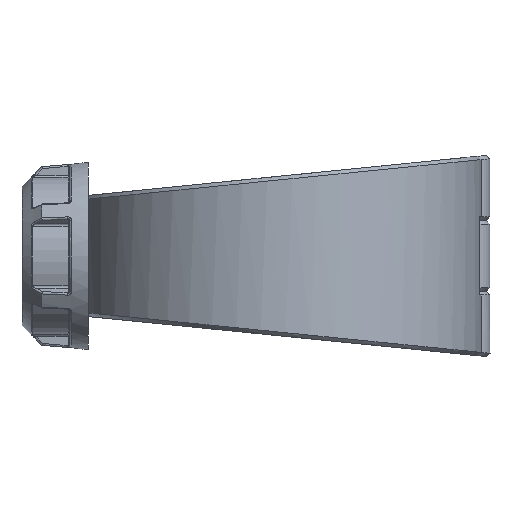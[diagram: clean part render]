
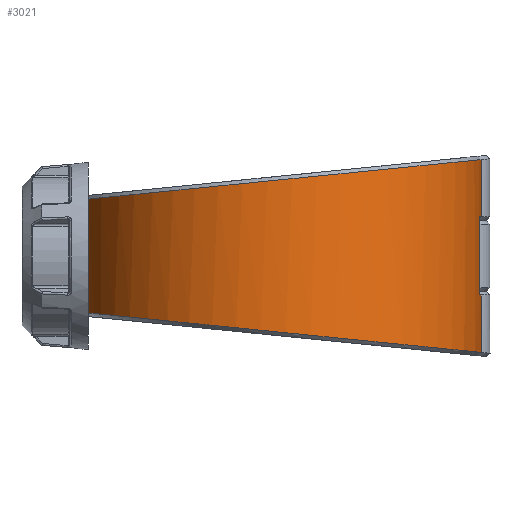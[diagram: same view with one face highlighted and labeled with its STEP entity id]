
A CAD part, left-side view. The second image highlights one B-rep face of the part: STEP entity #3021.
In plain terms, the highlighted cylindrical face has radius 110 mm (diameter 220 mm), a partial arc.
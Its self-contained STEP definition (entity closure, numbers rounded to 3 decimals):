
#212=FACE_OUTER_BOUND('',#416,.T.);
#416=EDGE_LOOP('',(#2055,#2056,#2057,#2058,#2059,#2060,#2061,#2062,#2063,
#2064,#2065,#2066));
#623=CIRCLE('',#3251,110.);
#626=CIRCLE('',#3256,110.);
#805=B_SPLINE_CURVE_WITH_KNOTS('',3,(#4512,#4513,#4514,#4515),
 .UNSPECIFIED.,.F.,.F.,(4,4),(-0.001,0.),.UNSPECIFIED.);
#806=B_SPLINE_CURVE_WITH_KNOTS('',3,(#4517,#4518,#4519,#4520),
 .UNSPECIFIED.,.F.,.F.,(4,4),(-3.049,-3.049),
 .UNSPECIFIED.);
#807=B_SPLINE_CURVE_WITH_KNOTS('',3,(#4521,#4522,#4523,#4524,#4525,#4526,
#4527,#4528,#4529,#4530),.UNSPECIFIED.,.F.,.F.,(4,1,1,1,1,1,1,4),(0.317,
0.656,1.056,1.457,1.857,2.257,
2.657,3.049),.UNSPECIFIED.);
#808=B_SPLINE_CURVE_WITH_KNOTS('',3,(#4532,#4533,#4534,#4535,#4536,#4537,
#4538,#4539,#4540,#4541),.UNSPECIFIED.,.F.,.F.,(4,1,1,1,1,1,1,4),(-3.049,
-2.657,-2.257,-1.857,-1.457,-1.056,
-0.656,-0.317),.UNSPECIFIED.);
#809=B_SPLINE_CURVE_WITH_KNOTS('',3,(#4543,#4544,#4545,#4546),
 .UNSPECIFIED.,.F.,.F.,(4,4),(3.049,3.049),
 .UNSPECIFIED.);
#810=B_SPLINE_CURVE_WITH_KNOTS('',3,(#4548,#4549,#4550,#4551),
 .UNSPECIFIED.,.F.,.F.,(4,4),(-0.361,-0.36),
 .UNSPECIFIED.);
#972=LINE('',#4391,#1093);
#979=LINE('',#4446,#1100);
#985=LINE('',#4510,#1106);
#986=LINE('',#4552,#1107);
#1093=VECTOR('',#3575,10.);
#1100=VECTOR('',#3592,10.);
#1106=VECTOR('',#3638,10.);
#1107=VECTOR('',#3639,10.);
#1216=VERTEX_POINT('',#4376);
#1217=VERTEX_POINT('',#4390);
#1229=VERTEX_POINT('',#4440);
#1230=VERTEX_POINT('',#4445);
#1236=VERTEX_POINT('',#4466);
#1239=VERTEX_POINT('',#4487);
#1243=VERTEX_POINT('',#4509);
#1244=VERTEX_POINT('',#4511);
#1245=VERTEX_POINT('',#4516);
#1246=VERTEX_POINT('',#4531);
#1247=VERTEX_POINT('',#4542);
#1248=VERTEX_POINT('',#4547);
#1510=EDGE_CURVE('',#1216,#1217,#972,.T.);
#1524=EDGE_CURVE('',#1229,#1230,#979,.T.);
#1537=EDGE_CURVE('',#1236,#1229,#623,.T.);
#1542=EDGE_CURVE('',#1230,#1239,#626,.T.);
#1548=EDGE_CURVE('',#1243,#1236,#985,.T.);
#1549=EDGE_CURVE('',#1244,#1243,#805,.T.);
#1550=EDGE_CURVE('',#1244,#1245,#806,.T.);
#1551=EDGE_CURVE('',#1217,#1245,#807,.T.);
#1552=EDGE_CURVE('',#1246,#1216,#808,.T.);
#1553=EDGE_CURVE('',#1246,#1247,#809,.T.);
#1554=EDGE_CURVE('',#1248,#1247,#810,.T.);
#1555=EDGE_CURVE('',#1239,#1248,#986,.T.);
#2055=ORIENTED_EDGE('',*,*,#1542,.F.);
#2056=ORIENTED_EDGE('',*,*,#1524,.F.);
#2057=ORIENTED_EDGE('',*,*,#1537,.F.);
#2058=ORIENTED_EDGE('',*,*,#1548,.F.);
#2059=ORIENTED_EDGE('',*,*,#1549,.F.);
#2060=ORIENTED_EDGE('',*,*,#1550,.T.);
#2061=ORIENTED_EDGE('',*,*,#1551,.F.);
#2062=ORIENTED_EDGE('',*,*,#1510,.F.);
#2063=ORIENTED_EDGE('',*,*,#1552,.F.);
#2064=ORIENTED_EDGE('',*,*,#1553,.T.);
#2065=ORIENTED_EDGE('',*,*,#1554,.F.);
#2066=ORIENTED_EDGE('',*,*,#1555,.F.);
#2962=CYLINDRICAL_SURFACE('',#3261,110.);
#3021=ADVANCED_FACE('',(#212),#2962,.T.);
#3251=AXIS2_PLACEMENT_3D('',#4482,#3614,#3615);
#3256=AXIS2_PLACEMENT_3D('',#4496,#3624,#3625);
#3261=AXIS2_PLACEMENT_3D('',#4508,#3636,#3637);
#3575=DIRECTION('',(0.,0.,1.));
#3592=DIRECTION('',(0.,0.,-1.));
#3614=DIRECTION('center_axis',(0.,0.,-1.));
#3615=DIRECTION('ref_axis',(0.312,-0.95,0.));
#3624=DIRECTION('center_axis',(0.,0.,1.));
#3625=DIRECTION('ref_axis',(0.312,-0.95,0.));
#3636=DIRECTION('center_axis',(0.,0.,1.));
#3637=DIRECTION('ref_axis',(-0.312,0.95,0.));
#3638=DIRECTION('',(0.,0.,-1.));
#3639=DIRECTION('',(0.,0.,-1.));
#4376=CARTESIAN_POINT('',(-34.347,104.5,-30.999));
#4390=CARTESIAN_POINT('',(-34.347,104.5,30.999));
#4391=CARTESIAN_POINT('',(-34.347,104.5,0.));
#4440=CARTESIAN_POINT('',(-17.029,-108.674,21.25));
#4445=CARTESIAN_POINT('',(-17.029,-108.674,-21.25));
#4446=CARTESIAN_POINT('',(-17.029,-108.674,0.));
#4466=CARTESIAN_POINT('',(-10.117,-109.534,21.25));
#4482=CARTESIAN_POINT('Origin',(0.,0.,21.25));
#4487=CARTESIAN_POINT('',(-10.117,-109.534,-21.25));
#4496=CARTESIAN_POINT('Origin',(0.,0.,-21.25));
#4508=CARTESIAN_POINT('Origin',(0.,0.,0.));
#4509=CARTESIAN_POINT('',(-10.117,-109.534,52.505));
#4510=CARTESIAN_POINT('',(-10.117,-109.534,0.));
#4511=CARTESIAN_POINT('',(-10.109,-109.535,52.511));
#4512=CARTESIAN_POINT('Ctrl Pts',(-10.109,-109.535,52.511));
#4513=CARTESIAN_POINT('Ctrl Pts',(-10.111,-109.534,52.509));
#4514=CARTESIAN_POINT('Ctrl Pts',(-10.114,-109.534,52.507));
#4515=CARTESIAN_POINT('Ctrl Pts',(-10.117,-109.534,52.505));
#4516=CARTESIAN_POINT('',(-10.117,-109.534,52.511));
#4517=CARTESIAN_POINT('Ctrl Pts',(-10.109,-109.534,52.511));
#4518=CARTESIAN_POINT('Ctrl Pts',(-10.111,-109.534,52.511));
#4519=CARTESIAN_POINT('Ctrl Pts',(-10.114,-109.534,52.511));
#4520=CARTESIAN_POINT('Ctrl Pts',(-10.117,-109.534,52.511));
#4521=CARTESIAN_POINT('Ctrl Pts',(-34.347,104.498,30.999));
#4522=CARTESIAN_POINT('Ctrl Pts',(-46.173,100.605,31.39));
#4523=CARTESIAN_POINT('Ctrl Pts',(-70.517,87.723,32.682));
#4524=CARTESIAN_POINT('Ctrl Pts',(-98.454,55.447,35.922));
#4525=CARTESIAN_POINT('Ctrl Pts',(-112.264,12.67,40.219));
#4526=CARTESIAN_POINT('Ctrl Pts',(-108.336,-32.076,44.716));
#4527=CARTESIAN_POINT('Ctrl Pts',(-87.284,-71.718,48.704));
#4528=CARTESIAN_POINT('Ctrl Pts',(-52.741,-99.838,51.535));
#4529=CARTESIAN_POINT('Ctrl Pts',(-24.398,-108.213,52.378));
#4530=CARTESIAN_POINT('Ctrl Pts',(-10.117,-109.534,52.511));
#4531=CARTESIAN_POINT('',(-10.117,-109.534,-52.511));
#4532=CARTESIAN_POINT('Ctrl Pts',(-10.117,-109.534,-52.511));
#4533=CARTESIAN_POINT('Ctrl Pts',(-24.398,-108.213,-52.378));
#4534=CARTESIAN_POINT('Ctrl Pts',(-52.735,-99.833,-51.534));
#4535=CARTESIAN_POINT('Ctrl Pts',(-87.293,-71.725,-48.705));
#4536=CARTESIAN_POINT('Ctrl Pts',(-108.324,-32.073,-44.716));
#4537=CARTESIAN_POINT('Ctrl Pts',(-112.276,12.671,-40.219));
#4538=CARTESIAN_POINT('Ctrl Pts',(-98.443,55.442,-35.923));
#4539=CARTESIAN_POINT('Ctrl Pts',(-70.523,87.727,-32.682));
#4540=CARTESIAN_POINT('Ctrl Pts',(-46.173,100.606,-31.39));
#4541=CARTESIAN_POINT('Ctrl Pts',(-34.347,104.498,-30.999));
#4542=CARTESIAN_POINT('',(-10.109,-109.535,-52.511));
#4543=CARTESIAN_POINT('Ctrl Pts',(-10.117,-109.534,-52.511));
#4544=CARTESIAN_POINT('Ctrl Pts',(-10.114,-109.534,-52.511));
#4545=CARTESIAN_POINT('Ctrl Pts',(-10.111,-109.534,-52.511));
#4546=CARTESIAN_POINT('Ctrl Pts',(-10.109,-109.534,-52.511));
#4547=CARTESIAN_POINT('',(-10.117,-109.534,-52.505));
#4548=CARTESIAN_POINT('Ctrl Pts',(-10.117,-109.533,-52.505));
#4549=CARTESIAN_POINT('Ctrl Pts',(-10.114,-109.534,-52.507));
#4550=CARTESIAN_POINT('Ctrl Pts',(-10.111,-109.534,-52.509));
#4551=CARTESIAN_POINT('Ctrl Pts',(-10.108,-109.534,-52.511));
#4552=CARTESIAN_POINT('',(-10.117,-109.534,0.));
